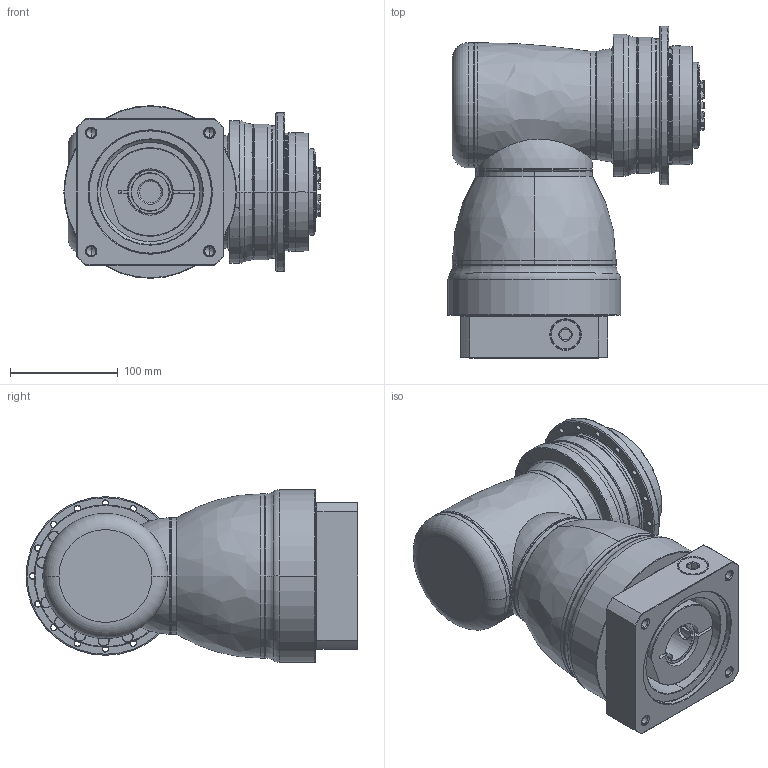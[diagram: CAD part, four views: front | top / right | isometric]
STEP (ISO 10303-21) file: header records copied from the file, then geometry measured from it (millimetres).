
FILE_DESCRIPTION((''),'2;1');
FILE_NAME('APCK110_2ST_SBG_35-P0409800201_ASM','2018-05-18T',('d01226'),(''),'PRO/ENGINEER BY PARAMETRIC TECHNOLOGY CORPORATION, 2008410','PRO/ENGINEER BY PARAMETRIC TECHNOLOGY CORPORATION, 2008410','');
FILE_SCHEMA(('CONFIG_CONTROL_DESIGN'));
Length unit declared in the file: millimetre
Products named in the file (13): P0278401003; P03594C0103; P1211400001; P1802410011; P1018500002; P1365500001; P1007501001; P1318501301; P0409800201; P0503800012; P0912503001; 21711422019; APCK110_2ST_SBG_35-P0409800201_ASM
Assembly tree (12 placements, depth 2):
  APCK110_2ST_SBG_35-P0409800201_ASM
    P0278401003
    P03594C0103
    P1211400001
    P1802410011
    P1018500002
    P1365500001
    P1007501001
    P1318501301
    P0409800201
    P0503800012
    P0912503001
    21711422019
Bounding box: 237.4 x 307.5 x 160 mm (x, y, z)
Volume: 5100803 mm3; surface area: 519554.3 mm2
Topology: 13 solids, 23 shells, 765 faces, 1802 edges, 1115 vertices
Faces by surface type: cylinder 266, cone 210, plane 160, torus 108, bspline 19, sphere 2
Entity records: 27699 total; most frequent: CARTESIAN_POINT 9432, DIRECTION 4148, ORIENTED_EDGE 3534, AXIS2_PLACEMENT_3D 1817, EDGE_CURVE 1788, VERTEX_POINT 1115, CIRCLE 1036, EDGE_LOOP 879
